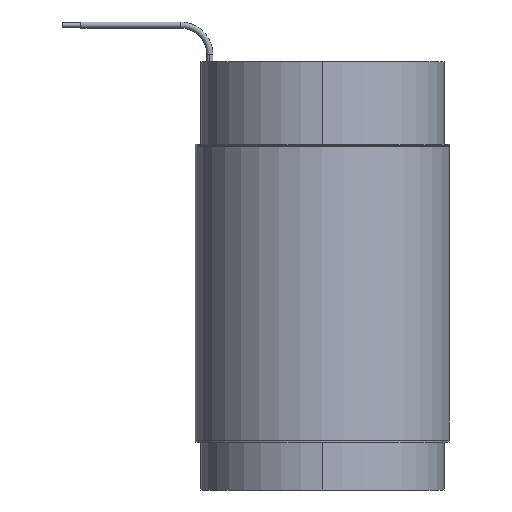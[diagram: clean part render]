
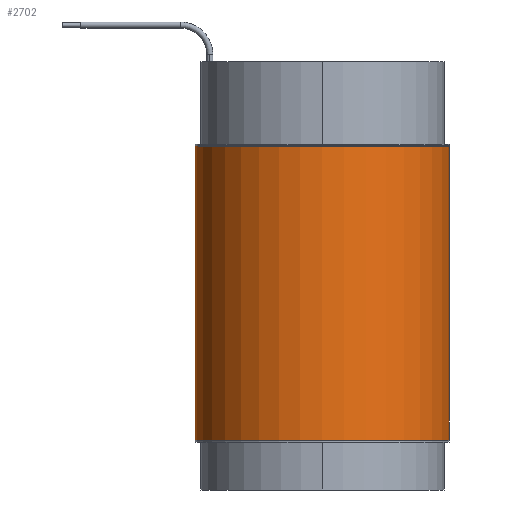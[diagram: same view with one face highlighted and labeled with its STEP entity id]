
A CAD part, left-side view. The second image highlights one B-rep face of the part: STEP entity #2702.
In plain terms, the highlighted cylindrical face has radius 43.815 mm (diameter 87.63 mm), a partial arc.
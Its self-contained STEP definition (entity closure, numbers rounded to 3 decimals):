
#143 = EDGE_CURVE ( 'NONE', #1455, #1671, #1266, .T. ) ;
#239 = CARTESIAN_POINT ( 'NONE',  ( 0., 0., 50.6 ) ) ;
#384 = CARTESIAN_POINT ( 'NONE',  ( 0., 43.815, -50.6 ) ) ;
#418 = CARTESIAN_POINT ( 'NONE',  ( 0., 43.815, 50.6 ) ) ;
#424 = VECTOR ( 'NONE', #2761, 1000. ) ;
#477 = CARTESIAN_POINT ( 'NONE',  ( 0., 43.815, 51.311 ) ) ;
#495 = LINE ( 'NONE', #2233, #887 ) ;
#641 = CARTESIAN_POINT ( 'NONE',  ( 0., 0., 51.311 ) ) ;
#670 = VERTEX_POINT ( 'NONE', #384 ) ;
#723 = DIRECTION ( 'NONE',  ( 0., 0., 1. ) ) ;
#781 = EDGE_LOOP ( 'NONE', ( #2157, #2981, #1746, #1778 ) ) ;
#887 = VECTOR ( 'NONE', #3026, 1000. ) ;
#906 = VERTEX_POINT ( 'NONE', #2848 ) ;
#1009 = EDGE_CURVE ( 'NONE', #1455, #670, #1666, .T. ) ;
#1043 = CYLINDRICAL_SURFACE ( 'NONE', #2349, 43.815 ) ;
#1114 = DIRECTION ( 'NONE',  ( 1., 0., 0. ) ) ;
#1266 = CIRCLE ( 'NONE', #1349, 43.815 ) ;
#1349 = AXIS2_PLACEMENT_3D ( 'NONE', #239, #723, #2404 ) ;
#1364 = EDGE_CURVE ( 'NONE', #1671, #906, #495, .T. ) ;
#1384 = CIRCLE ( 'NONE', #1651, 43.815 ) ;
#1455 = VERTEX_POINT ( 'NONE', #418 ) ;
#1610 = DIRECTION ( 'NONE',  ( 0., 0., -1. ) ) ;
#1651 = AXIS2_PLACEMENT_3D ( 'NONE', #2298, #3033, #1114 ) ;
#1666 = LINE ( 'NONE', #477, #424 ) ;
#1671 = VERTEX_POINT ( 'NONE', #2634 ) ;
#1696 = DIRECTION ( 'NONE',  ( 0., 1., 0. ) ) ;
#1746 = ORIENTED_EDGE ( 'NONE', *, *, #1009, .T. ) ;
#1778 = ORIENTED_EDGE ( 'NONE', *, *, #2022, .T. ) ;
#2022 = EDGE_CURVE ( 'NONE', #670, #906, #1384, .T. ) ;
#2157 = ORIENTED_EDGE ( 'NONE', *, *, #1364, .F. ) ;
#2233 = CARTESIAN_POINT ( 'NONE',  ( 0., -43.815, 51.311 ) ) ;
#2298 = CARTESIAN_POINT ( 'NONE',  ( 0., 0., -50.6 ) ) ;
#2313 = FACE_OUTER_BOUND ( 'NONE', #781, .T. ) ;
#2349 = AXIS2_PLACEMENT_3D ( 'NONE', #641, #1610, #1696 ) ;
#2404 = DIRECTION ( 'NONE',  ( 1., 0., 0. ) ) ;
#2634 = CARTESIAN_POINT ( 'NONE',  ( 0., -43.815, 50.6 ) ) ;
#2702 = ADVANCED_FACE ( 'NONE', ( #2313 ), #1043, .T. ) ;
#2761 = DIRECTION ( 'NONE',  ( 0., 0., -1. ) ) ;
#2848 = CARTESIAN_POINT ( 'NONE',  ( 0., -43.815, -50.6 ) ) ;
#2981 = ORIENTED_EDGE ( 'NONE', *, *, #143, .F. ) ;
#3026 = DIRECTION ( 'NONE',  ( 0., 0., -1. ) ) ;
#3033 = DIRECTION ( 'NONE',  ( 0., 0., 1. ) ) ;
